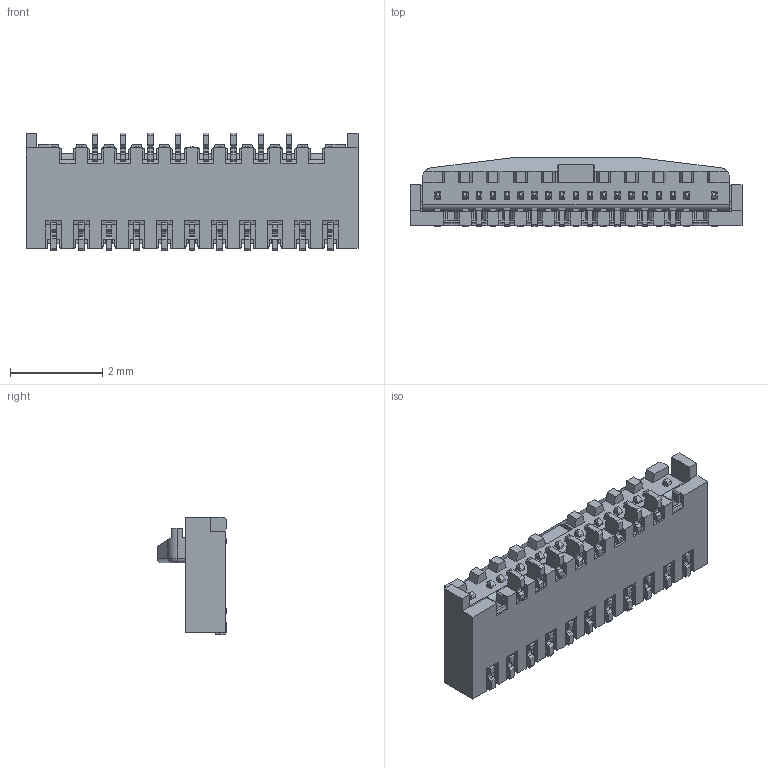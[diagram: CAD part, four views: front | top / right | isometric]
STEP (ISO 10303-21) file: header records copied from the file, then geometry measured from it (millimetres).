
FILE_DESCRIPTION (( 'STEP AP203' ), '1' );
FILE_NAME ('20599-017ExC ASS''Y ACT OPEN STEP R0 Garmin.STEP', '2013-08-06T03:55:47', ( ' ' ), ( ' ' ), 'SwSTEP 2.0', 'SolidWorks 2011', '' );
FILE_SCHEMA (( 'CONFIG_CONTROL_DESIGN' ));
Products named in the file (1): 20599-017ExC ASS''Y ACT OPEN STEP R0 Garmin
Bounding box: 7.2 x 1.5 x 2.55 mm (x, y, z)
Volume: 14.1 mm3; surface area: 88.3 mm2
Topology: 1 solids, 1 shells, 1855 faces, 5380 edges, 3508 vertices
Faces by surface type: plane 1552, cylinder 286, bspline 13, sphere 2, torus 2
Entity records: 60791 total; most frequent: CARTESIAN_POINT 11650, ORIENTED_EDGE 10756, DIRECTION 9462, EDGE_CURVE 5378, VECTOR 4686, LINE 4686, VERTEX_POINT 3508, AXIS2_PLACEMENT_3D 2388
